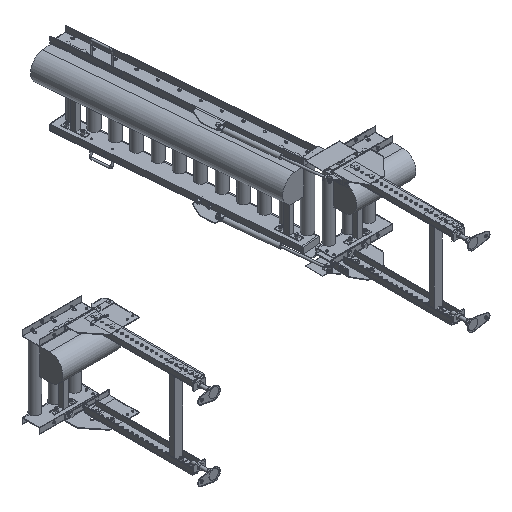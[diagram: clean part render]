
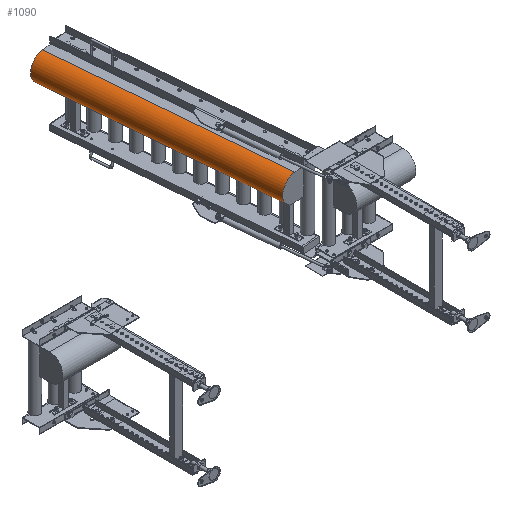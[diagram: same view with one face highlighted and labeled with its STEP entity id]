
A CAD part, isometric view. The second image highlights one B-rep face of the part: STEP entity #1090.
In plain terms, the highlighted cylindrical face has radius 66.89 mm (diameter 133.78 mm), a partial arc.
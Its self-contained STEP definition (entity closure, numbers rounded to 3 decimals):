
#1090=ADVANCED_FACE('',(#5367),#5366,.T.);
#5366=CYLINDRICAL_SURFACE('',#30946,66.89);
#5367=FACE_OUTER_BOUND('',#30947,.T.);
#30943=CARTESIAN_POINT('',(-71.797,-158.438,112.61));
#30944=DIRECTION('',(0.087,-0.996,0.));
#30945=DIRECTION('',(0.,0.,-1.));
#30946=AXIS2_PLACEMENT_3D('',#30943,#30944,#30945);
#30947=EDGE_LOOP('',(#45150,#45151,#45152,#45153));
#45150=ORIENTED_EDGE('',*,*,#57764,.F.);
#45151=ORIENTED_EDGE('',*,*,#57765,.T.);
#45152=ORIENTED_EDGE('',*,*,#57745,.T.);
#45153=ORIENTED_EDGE('',*,*,#57763,.F.);
#57745=EDGE_CURVE('',#68008,#68022,#68029,.T.);
#57763=EDGE_CURVE('',#68144,#68022,#68151,.T.);
#57764=EDGE_CURVE('',#68157,#68144,#68158,.T.);
#57765=EDGE_CURVE('',#68157,#68008,#68164,.T.);
#68008=VERTEX_POINT('',#109835);
#68022=VERTEX_POINT('',#109843);
#68029=CIRCLE('',#109850,66.89);
#68144=VERTEX_POINT('',#109912);
#68151=LINE('',#109916,#109917);
#68157=VERTEX_POINT('',#109919);
#68158=CIRCLE('',#109923,66.89);
#68164=LINE('',#109924,#109925);
#109835=CARTESIAN_POINT('',(-190.216,1196.047,179.5));
#109843=CARTESIAN_POINT('',(-190.216,1196.047,45.72));
#109847=CARTESIAN_POINT('',(-190.216,1196.047,112.61));
#109848=DIRECTION('',(0.087,-0.996,0.));
#109849=DIRECTION('',(0.,0.,-1.));
#109850=AXIS2_PLACEMENT_3D('',#109847,#109848,#109849);
#109912=CARTESIAN_POINT('',(-87.269,18.539,45.72));
#109916=CARTESIAN_POINT('',(-87.269,18.539,45.72));
#109917=VECTOR('',#109918,1182.);
#109918=DIRECTION('',(-0.087,0.996,0.));
#109919=CARTESIAN_POINT('',(-87.269,18.539,179.5));
#109920=CARTESIAN_POINT('',(-87.269,18.539,112.61));
#109921=DIRECTION('',(0.087,-0.996,0.));
#109922=DIRECTION('',(0.,0.,1.));
#109923=AXIS2_PLACEMENT_3D('',#109920,#109921,#109922);
#109924=CARTESIAN_POINT('',(-87.269,18.539,179.5));
#109925=VECTOR('',#109926,1182.);
#109926=DIRECTION('',(-0.087,0.996,0.));
